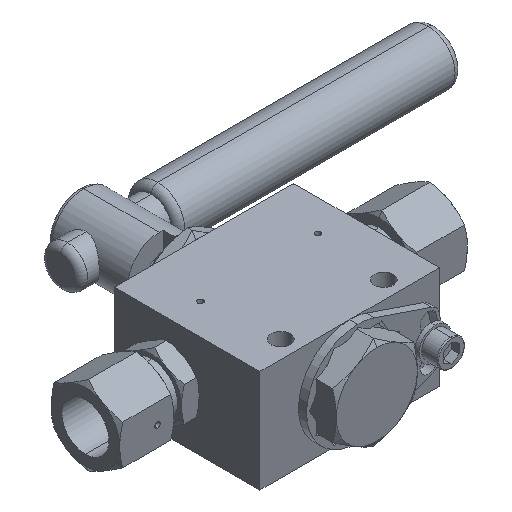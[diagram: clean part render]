
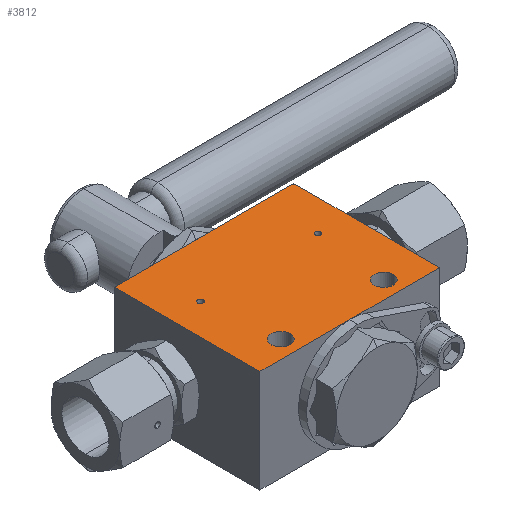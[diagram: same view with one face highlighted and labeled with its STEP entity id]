
A CAD part, isometric view. The second image highlights one B-rep face of the part: STEP entity #3812.
In plain terms, the highlighted planar face has unit normal (0, 0, 1).
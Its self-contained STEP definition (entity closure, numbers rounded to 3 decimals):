
#95 = LINE ( 'NONE', #2661, #1590 ) ;
#337 = VECTOR ( 'NONE', #1130, 1000. ) ;
#411 = CARTESIAN_POINT ( 'NONE',  ( -22.75, 6.5, 19. ) ) ;
#476 = CARTESIAN_POINT ( 'NONE',  ( -20.75, 6.5, 19. ) ) ;
#512 = CARTESIAN_POINT ( 'NONE',  ( -15.55, -20.5, 19. ) ) ;
#548 = CARTESIAN_POINT ( 'NONE',  ( 0., 0., 19. ) ) ;
#639 = DIRECTION ( 'NONE',  ( -1., 0., 0. ) ) ;
#692 = CARTESIAN_POINT ( 'NONE',  ( 20.75, 6.5, 19. ) ) ;
#711 = CARTESIAN_POINT ( 'NONE',  ( 19.05, -20.5, 19. ) ) ;
#1021 = CIRCLE ( 'NONE', #6173, 3.5 ) ;
#1110 = ORIENTED_EDGE ( 'NONE', *, *, #4701, .T. ) ;
#1130 = DIRECTION ( 'NONE',  ( -1., 0., 0. ) ) ;
#1158 = VERTEX_POINT ( 'NONE', #512 ) ;
#1170 = CARTESIAN_POINT ( 'NONE',  ( -33.25, -27., 19. ) ) ;
#1230 = ORIENTED_EDGE ( 'NONE', *, *, #1900, .F. ) ;
#1302 = CIRCLE ( 'NONE', #4215, 3.5 ) ;
#1510 = EDGE_CURVE ( 'NONE', #1158, #3671, #2448, .T. ) ;
#1590 = VECTOR ( 'NONE', #6781, 1000. ) ;
#1672 = DIRECTION ( 'NONE',  ( 1., 0., 0. ) ) ;
#1683 = DIRECTION ( 'NONE',  ( 1., 0., 0. ) ) ;
#1706 = AXIS2_PLACEMENT_3D ( 'NONE', #5846, #6548, #7382 ) ;
#1852 = DIRECTION ( 'NONE',  ( 0., 0., 1. ) ) ;
#1863 = VERTEX_POINT ( 'NONE', #692 ) ;
#1900 = EDGE_CURVE ( 'NONE', #3671, #1158, #3638, .T. ) ;
#1906 = CARTESIAN_POINT ( 'NONE',  ( -33.25, -27., 19. ) ) ;
#1944 = EDGE_CURVE ( 'NONE', #4644, #2819, #7276, .T. ) ;
#1954 = FACE_OUTER_BOUND ( 'NONE', #3246, .T. ) ;
#1991 = CIRCLE ( 'NONE', #6871, 1. ) ;
#2000 = FACE_BOUND ( 'NONE', #5779, .T. ) ;
#2013 = VECTOR ( 'NONE', #2378, 1000. ) ;
#2019 = CARTESIAN_POINT ( 'NONE',  ( -21.75, 6.5, 19. ) ) ;
#2162 = VERTEX_POINT ( 'NONE', #5758 ) ;
#2226 = ORIENTED_EDGE ( 'NONE', *, *, #3478, .F. ) ;
#2312 = AXIS2_PLACEMENT_3D ( 'NONE', #4068, #4670, #4541 ) ;
#2345 = CARTESIAN_POINT ( 'NONE',  ( -22.55, -20.5, 19. ) ) ;
#2378 = DIRECTION ( 'NONE',  ( 0., -1., 0. ) ) ;
#2448 = CIRCLE ( 'NONE', #2312, 3.5 ) ;
#2594 = ORIENTED_EDGE ( 'NONE', *, *, #1944, .F. ) ;
#2617 = EDGE_CURVE ( 'NONE', #2162, #6437, #1302, .T. ) ;
#2661 = CARTESIAN_POINT ( 'NONE',  ( 33.25, -27., 19. ) ) ;
#2734 = FACE_BOUND ( 'NONE', #5455, .T. ) ;
#2767 = EDGE_LOOP ( 'NONE', ( #4288, #2594 ) ) ;
#2819 = VERTEX_POINT ( 'NONE', #411 ) ;
#2824 = CARTESIAN_POINT ( 'NONE',  ( 21.75, 6.5, 19. ) ) ;
#2867 = DIRECTION ( 'NONE',  ( 1., 0., 0. ) ) ;
#2949 = EDGE_CURVE ( 'NONE', #8343, #7791, #95, .T. ) ;
#3040 = CARTESIAN_POINT ( 'NONE',  ( 22.75, 6.5, 19. ) ) ;
#3246 = EDGE_LOOP ( 'NONE', ( #8646, #1110, #6112, #7873, #8492 ) ) ;
#3255 = DIRECTION ( 'NONE',  ( 0., 0., -1. ) ) ;
#3354 = CARTESIAN_POINT ( 'NONE',  ( 19.05, -20.5, 19. ) ) ;
#3356 = DIRECTION ( 'NONE',  ( 0., 0., 1. ) ) ;
#3439 = CARTESIAN_POINT ( 'NONE',  ( -33.25, -27., 19. ) ) ;
#3478 = EDGE_CURVE ( 'NONE', #4690, #1863, #7269, .T. ) ;
#3520 = EDGE_CURVE ( 'NONE', #5173, #5976, #6941, .T. ) ;
#3638 = CIRCLE ( 'NONE', #1706, 3.5 ) ;
#3671 = VERTEX_POINT ( 'NONE', #2345 ) ;
#3713 = CARTESIAN_POINT ( 'NONE',  ( -21.75, 6.5, 19. ) ) ;
#3812 = ADVANCED_FACE ( 'NONE', ( #1954, #5923, #2000, #6538, #2734 ), #4643, .F. ) ;
#4042 = CARTESIAN_POINT ( 'NONE',  ( -33.25, 27., 19. ) ) ;
#4068 = CARTESIAN_POINT ( 'NONE',  ( -19.05, -20.5, 19. ) ) ;
#4215 = AXIS2_PLACEMENT_3D ( 'NONE', #711, #6043, #8140 ) ;
#4288 = ORIENTED_EDGE ( 'NONE', *, *, #7551, .F. ) ;
#4541 = DIRECTION ( 'NONE',  ( 1., 0., 0. ) ) ;
#4643 = PLANE ( 'NONE',  #6208 ) ;
#4644 = VERTEX_POINT ( 'NONE', #476 ) ;
#4645 = LINE ( 'NONE', #6631, #7575 ) ;
#4670 = DIRECTION ( 'NONE',  ( 0., 0., 1. ) ) ;
#4690 = VERTEX_POINT ( 'NONE', #3040 ) ;
#4701 = EDGE_CURVE ( 'NONE', #7791, #4727, #8424, .T. ) ;
#4722 = EDGE_CURVE ( 'NONE', #5976, #8343, #4645, .T. ) ;
#4727 = VERTEX_POINT ( 'NONE', #4042 ) ;
#4818 = CARTESIAN_POINT ( 'NONE',  ( 22.55, -20.5, 19. ) ) ;
#4878 = ORIENTED_EDGE ( 'NONE', *, *, #5616, .F. ) ;
#4981 = EDGE_CURVE ( 'NONE', #4727, #5173, #7145, .T. ) ;
#5025 = VECTOR ( 'NONE', #6899, 1000. ) ;
#5154 = CARTESIAN_POINT ( 'NONE',  ( 21.75, 6.5, 19. ) ) ;
#5173 = VERTEX_POINT ( 'NONE', #1906 ) ;
#5302 = DIRECTION ( 'NONE',  ( 1., 0., 0. ) ) ;
#5445 = DIRECTION ( 'NONE',  ( 0., 0., 1. ) ) ;
#5455 = EDGE_LOOP ( 'NONE', ( #7882, #4878 ) ) ;
#5593 = AXIS2_PLACEMENT_3D ( 'NONE', #2019, #3356, #6644 ) ;
#5616 = EDGE_CURVE ( 'NONE', #6437, #2162, #1021, .T. ) ;
#5635 = DIRECTION ( 'NONE',  ( 0., 0., 1. ) ) ;
#5685 = CARTESIAN_POINT ( 'NONE',  ( 33.25, 27., 19. ) ) ;
#5740 = ORIENTED_EDGE ( 'NONE', *, *, #7189, .F. ) ;
#5758 = CARTESIAN_POINT ( 'NONE',  ( 15.55, -20.5, 19. ) ) ;
#5779 = EDGE_LOOP ( 'NONE', ( #5740, #2226 ) ) ;
#5846 = CARTESIAN_POINT ( 'NONE',  ( -19.05, -20.5, 19. ) ) ;
#5923 = FACE_BOUND ( 'NONE', #2767, .T. ) ;
#5976 = VERTEX_POINT ( 'NONE', #7751 ) ;
#6043 = DIRECTION ( 'NONE',  ( 0., 0., 1. ) ) ;
#6112 = ORIENTED_EDGE ( 'NONE', *, *, #4981, .T. ) ;
#6173 = AXIS2_PLACEMENT_3D ( 'NONE', #3354, #1852, #6817 ) ;
#6208 = AXIS2_PLACEMENT_3D ( 'NONE', #548, #3255, #639 ) ;
#6437 = VERTEX_POINT ( 'NONE', #4818 ) ;
#6538 = FACE_BOUND ( 'NONE', #7550, .T. ) ;
#6548 = DIRECTION ( 'NONE',  ( 0., 0., 1. ) ) ;
#6550 = ORIENTED_EDGE ( 'NONE', *, *, #1510, .F. ) ;
#6631 = CARTESIAN_POINT ( 'NONE',  ( -33.25, -27., 19. ) ) ;
#6644 = DIRECTION ( 'NONE',  ( 1., 0., 0. ) ) ;
#6735 = CIRCLE ( 'NONE', #7835, 1. ) ;
#6781 = DIRECTION ( 'NONE',  ( 0., 1., 0. ) ) ;
#6817 = DIRECTION ( 'NONE',  ( 1., 0., 0. ) ) ;
#6871 = AXIS2_PLACEMENT_3D ( 'NONE', #3713, #5635, #1672 ) ;
#6899 = DIRECTION ( 'NONE',  ( 1., 0., 0. ) ) ;
#6941 = LINE ( 'NONE', #3439, #5025 ) ;
#6990 = AXIS2_PLACEMENT_3D ( 'NONE', #2824, #5445, #2867 ) ;
#7115 = CARTESIAN_POINT ( 'NONE',  ( -33.25, 27., 19. ) ) ;
#7145 = LINE ( 'NONE', #1170, #2013 ) ;
#7189 = EDGE_CURVE ( 'NONE', #1863, #4690, #6735, .T. ) ;
#7269 = CIRCLE ( 'NONE', #6990, 1. ) ;
#7276 = CIRCLE ( 'NONE', #5593, 1. ) ;
#7280 = CARTESIAN_POINT ( 'NONE',  ( 33.25, -27., 19. ) ) ;
#7382 = DIRECTION ( 'NONE',  ( 1., 0., 0. ) ) ;
#7550 = EDGE_LOOP ( 'NONE', ( #1230, #6550 ) ) ;
#7551 = EDGE_CURVE ( 'NONE', #2819, #4644, #1991, .T. ) ;
#7575 = VECTOR ( 'NONE', #5302, 1000. ) ;
#7751 = CARTESIAN_POINT ( 'NONE',  ( 0., -27., 19. ) ) ;
#7791 = VERTEX_POINT ( 'NONE', #5685 ) ;
#7825 = DIRECTION ( 'NONE',  ( 0., 0., 1. ) ) ;
#7835 = AXIS2_PLACEMENT_3D ( 'NONE', #5154, #7825, #1683 ) ;
#7873 = ORIENTED_EDGE ( 'NONE', *, *, #3520, .T. ) ;
#7882 = ORIENTED_EDGE ( 'NONE', *, *, #2617, .F. ) ;
#8140 = DIRECTION ( 'NONE',  ( 1., 0., 0. ) ) ;
#8343 = VERTEX_POINT ( 'NONE', #7280 ) ;
#8424 = LINE ( 'NONE', #7115, #337 ) ;
#8492 = ORIENTED_EDGE ( 'NONE', *, *, #4722, .T. ) ;
#8646 = ORIENTED_EDGE ( 'NONE', *, *, #2949, .T. ) ;
